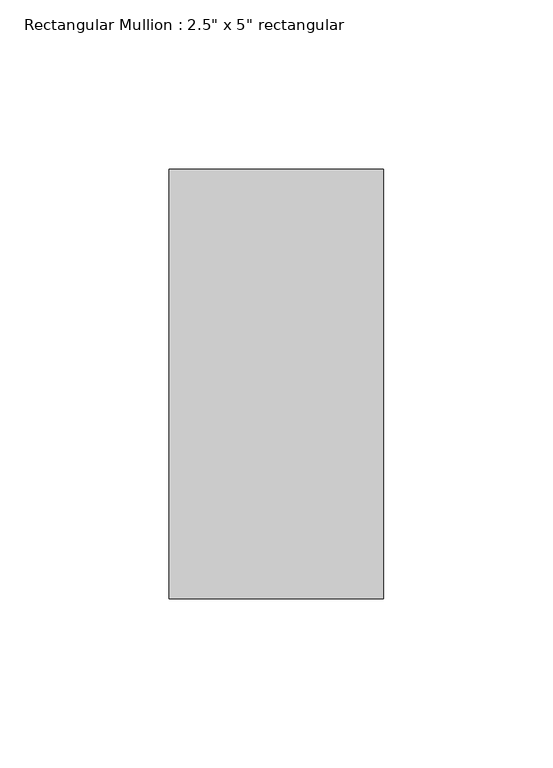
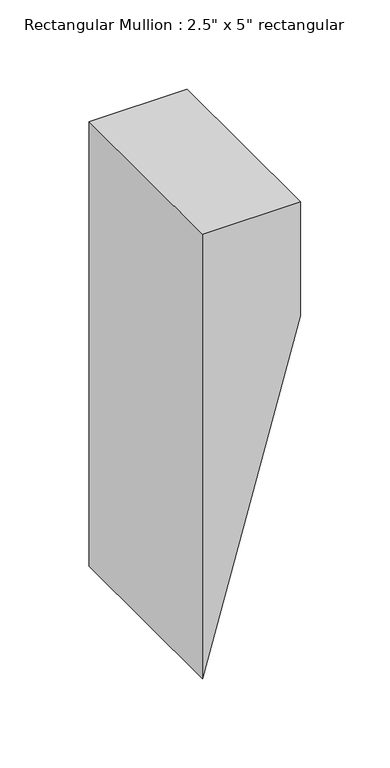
"""IFC4 building model written with IfcOpenShell, lengths in millimetres: member geometry."""

from ifc_helpers import new_model, si_unit, frame, origin, place, context, project, spatial, polyline, outline, extrude, source, transform, mapped, element, save


def member_494aa8e8(model_context):
    return source(origin(), model_context, "Body", "SweptSolid", [
        extrude(outline(polyline([(0.0, 31.75), (0.0, -31.75), (-303.6976584, -31.75), (-77.6957625, 31.75), (0.0, 31.75)])), frame((0.0, -63.5, 0.0), z_axis=(0.0, 1.0, 0.0), x_axis=(0.0, 0.0, 1.0)), (0.0, 0.0, 1.0), 127.0),
    ])


if __name__ == "__main__":
    model = new_model("IFC4")
    model_context = context("Model", 3, world=origin())
    ifc_project = project(units=[si_unit("LENGTHUNIT", "METRE", prefix="MILLI")], contexts=[model_context])
    site = spatial("IfcSite", under=ifc_project)
    building = spatial("IfcBuilding", under=site)
    placement = place(None, origin())
    member_shape = member_494aa8e8(model_context)
    element("IfcMember", 1, ObjectType="Rectangular Mullion : 2.5\" x 5\" rectangular", at=placement, inside=building, context=model_context, shape_type="MappedRepresentation", body=[
        mapped(member_shape, transform((0.0, 0.0, 0.0), x_axis=(1.0, 0.0, 0.0), y_axis=(0.0, 1.0, 0.0), z_axis=(0.0, 0.0, 1.0))),
    ])
    save(model, "model.ifc")
